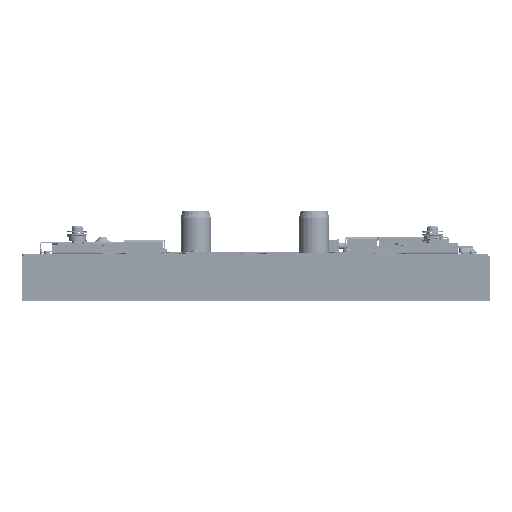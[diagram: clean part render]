
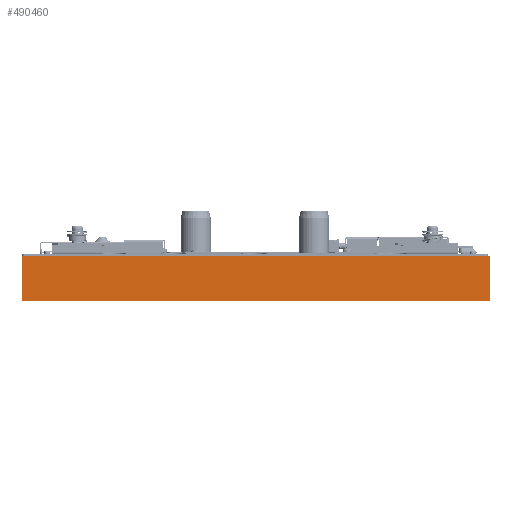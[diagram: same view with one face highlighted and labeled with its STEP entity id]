
A CAD part, left-side view. The second image highlights one B-rep face of the part: STEP entity #490460.
In plain terms, the highlighted planar face has unit normal (-1, 0, 0) as drawn and (0, 1, 0) by its records, which use the part's own axes.
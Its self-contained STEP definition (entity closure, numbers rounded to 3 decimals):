
#126 = CARTESIAN_POINT ( 'NONE',  ( -197.5, 0., -19.05 ) ) ;
#221087 = ORIENTED_EDGE ( 'NONE', *, *, #662851, .T. ) ;
#221106 = ORIENTED_EDGE ( 'NONE', *, *, #662994, .T. ) ;
#221126 = ORIENTED_EDGE ( 'NONE', *, *, #662945, .T. ) ;
#221142 = ORIENTED_EDGE ( 'NONE', *, *, #662897, .T. ) ;
#436408 = LINE ( 'NONE', #524763, #436416 ) ;
#436416 = VECTOR ( 'NONE', #525066, 1000. ) ;
#436479 = LINE ( 'NONE', #525319, #436528 ) ;
#436528 = VECTOR ( 'NONE', #525443, 1000. ) ;
#436635 = LINE ( 'NONE', #525899, #436642 ) ;
#436642 = VECTOR ( 'NONE', #525734, 1000. ) ;
#436726 = LINE ( 'NONE', #526222, #436753 ) ;
#436753 = VECTOR ( 'NONE', #526366, 1000. ) ;
#475073 = EDGE_LOOP ( 'NONE', ( #221087, #221106, #221126, #221142 ) ) ;
#490460 = ADVANCED_FACE ( 'NONE', ( #902005 ), #943982, .F. ) ;
#524763 = CARTESIAN_POINT ( 'NONE',  ( 197.5, 0., 19.05 ) ) ;
#525066 = DIRECTION ( 'NONE',  ( 0., 0., -1. ) ) ;
#525319 = CARTESIAN_POINT ( 'NONE',  ( -197.5, 0., 19.05 ) ) ;
#525443 = DIRECTION ( 'NONE',  ( 1., 0., 0. ) ) ;
#525734 = DIRECTION ( 'NONE',  ( 0., 0., 1. ) ) ;
#525899 = CARTESIAN_POINT ( 'NONE',  ( -197.5, 0., 19.05 ) ) ;
#526222 = CARTESIAN_POINT ( 'NONE',  ( -197.5, 0., -19.05 ) ) ;
#526366 = DIRECTION ( 'NONE',  ( -1., 0., 0. ) ) ;
#662851 = EDGE_CURVE ( 'NONE', #906773, #905411, #436408, .T. ) ;
#662897 = EDGE_CURVE ( 'NONE', #905432, #906773, #436479, .T. ) ;
#662945 = EDGE_CURVE ( 'NONE', #906848, #905432, #436635, .T. ) ;
#662994 = EDGE_CURVE ( 'NONE', #905411, #906848, #436726, .T. ) ;
#902005 = FACE_OUTER_BOUND ( 'NONE', #475073, .T. ) ;
#905411 = VERTEX_POINT ( 'NONE', #1077044 ) ;
#905432 = VERTEX_POINT ( 'NONE', #1077082 ) ;
#906773 = VERTEX_POINT ( 'NONE', #1112998 ) ;
#906848 = VERTEX_POINT ( 'NONE', #126 ) ;
#943953 = DIRECTION ( 'NONE',  ( 0., -1., 0. ) ) ;
#943971 = CARTESIAN_POINT ( 'NONE',  ( 197.5, 0., -19.05 ) ) ;
#943982 = PLANE ( 'NONE',  #950320 ) ;
#943995 = DIRECTION ( 'NONE',  ( 0., 0., -1. ) ) ;
#950320 = AXIS2_PLACEMENT_3D ( 'NONE', #943971, #943953, #943995 ) ;
#1077044 = CARTESIAN_POINT ( 'NONE',  ( 197.5, 0., -19.05 ) ) ;
#1077082 = CARTESIAN_POINT ( 'NONE',  ( -197.5, 0., 19.05 ) ) ;
#1112998 = CARTESIAN_POINT ( 'NONE',  ( 197.5, 0., 19.05 ) ) ;
